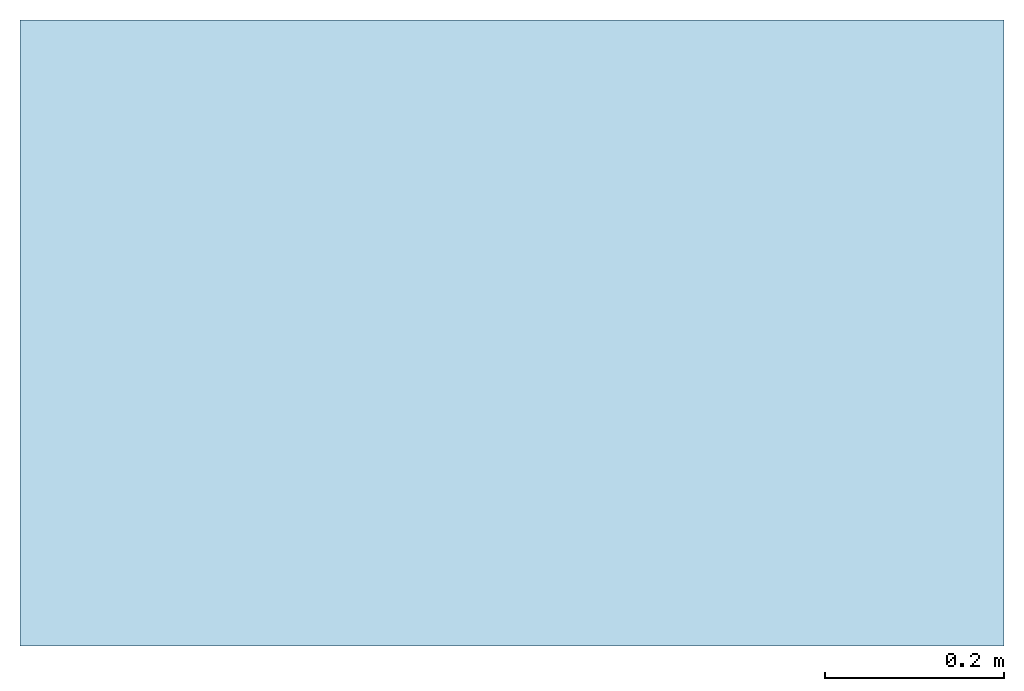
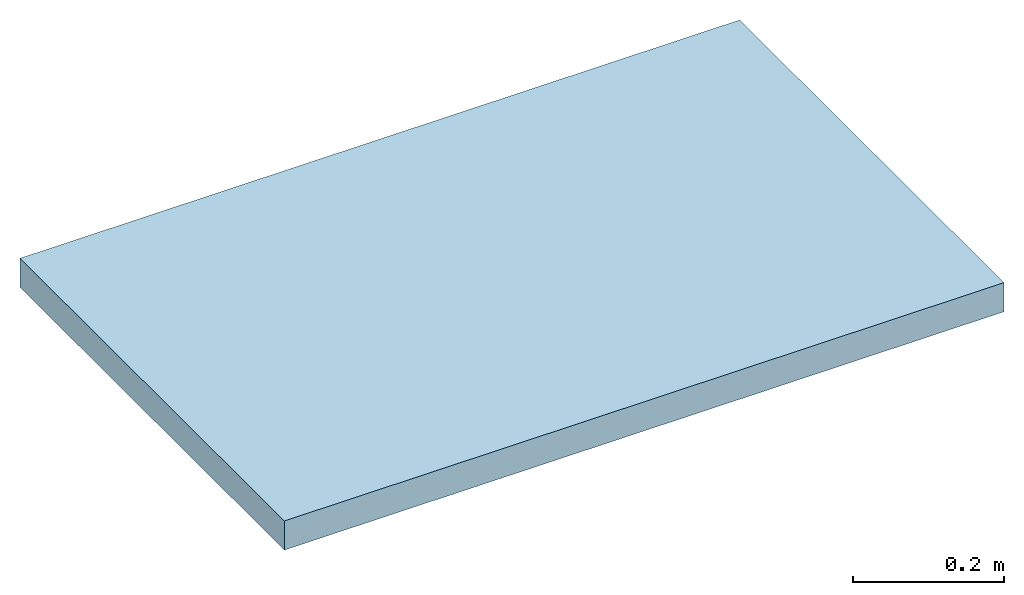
# One storey: 1 slab.
"""IFC2X3 building model written with IfcOpenShell, lengths in millimetres."""

from ifc_helpers import new_model, entity, si_unit, converted_unit, derived_unit, direction, frame, frame_2d, origin, place, context, subcontext, project, spatial, rectangle, extrude, material, layer, layer_set, layer_usage, element, save


model = new_model("IFC2X3")

# Units and contexts
model_context = context("Model", 3, precision=0.01, world=origin(), true_north=direction((6.12303176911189e-17, 1.0)))
context_of_model = context(None, 3, precision=0.01, world=origin(), true_north=direction((6.12303176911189e-17, 1.0)))
body_context = subcontext(model_context, "Body", "Model", "MODEL_VIEW")
ifc_project = project(units=[si_unit("LENGTHUNIT", "METRE", prefix="MILLI"), si_unit("AREAUNIT", "SQUARE_METRE"), si_unit("VOLUMEUNIT", "CUBIC_METRE"), converted_unit("PLANEANGLEUNIT", "DEGREE", entity("IfcRatioMeasure", 0.0174532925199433), si_unit("PLANEANGLEUNIT", "RADIAN"), dimensions=[0, 0, 0, 0, 0, 0, 0]), si_unit("MASSUNIT", "GRAM", prefix="KILO"), si_unit("TIMEUNIT", "SECOND"), si_unit("FREQUENCYUNIT", "HERTZ"), si_unit("THERMODYNAMICTEMPERATUREUNIT", "DEGREE_CELSIUS"), derived_unit("THERMALTRANSMITTANCEUNIT", [(si_unit("MASSUNIT", "GRAM", prefix="KILO"), 1), (si_unit("THERMODYNAMICTEMPERATUREUNIT", "KELVIN"), -1), (si_unit("TIMEUNIT", "SECOND"), -3)]), derived_unit("VOLUMETRICFLOWRATEUNIT", [(si_unit("LENGTHUNIT", "METRE"), 3), (si_unit("TIMEUNIT", "SECOND"), -1)]), si_unit("ELECTRICCURRENTUNIT", "AMPERE"), si_unit("ELECTRICVOLTAGEUNIT", "VOLT"), si_unit("POWERUNIT", "WATT"), si_unit("FORCEUNIT", "NEWTON", prefix="KILO"), si_unit("ILLUMINANCEUNIT", "LUX"), si_unit("LUMINOUSFLUXUNIT", "LUMEN"), si_unit("LUMINOUSINTENSITYUNIT", "CANDELA"), si_unit("PRESSUREUNIT", "PASCAL")], contexts=[model_context, context_of_model])

# Site, building, storey
site_placement = place(None, origin())
site = spatial("IfcSite", under=ifc_project, at=site_placement, Name="Default", CompositionType="ELEMENT")
building_placement = place(site_placement, origin())
building = spatial("IfcBuilding", under=site, at=building_placement, CompositionType="ELEMENT")
storey_placement = place(building_placement, origin())
storey = spatial("IfcBuildingStorey", under=building, at=storey_placement, Name="Уровень 1", CompositionType="ELEMENT", Elevation=0.0)

# Slab
ifc_material = material(Name="ROLS_ISOMARKET_Плита ENERGOFLOOR PIPELOCK 30/0,7-1,1 DES-sg")
ifc_layer = layer(ifc_material, 47.0)
ifc_layer_set = layer_set([ifc_layer], Name="Перекрытие:ROLS_ISOMARKET_Плита ENERGOFLOOR PIPELOCK 30/0,7-1,1 DES-sg")
ifc_layer_usage = layer_usage(ifc_layer_set, "AXIS3", "POSITIVE", 0.0)
slab_placement = place(storey_placement, origin())
element("IfcSlab", 1, at=slab_placement, inside=storey, material=ifc_layer_usage, Name="Перекрытие:ROLS_ISOMARKET_Плита ENERGOFLOOR PIPELOCK 30/0,7-1,1 DES-sg", ObjectType="Перекрытие:ROLS_ISOMARKET_Плита ENERGOFLOOR PIPELOCK 30/0,7-1,1 DES-sg", PredefinedType="FLOOR", context=body_context, shape_type="SweptSolid", body=[
    extrude(rectangle(XDim=699.999999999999, YDim=1100.0, at=frame_2d((-1.10844666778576e-12, -1.08002495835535e-12), x_axis=(1.0, 0.0))), frame((-12365.4270794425, 11452.1606263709, 0.0), z_axis=(0.0, 0.0, -1.0), x_axis=(0.0, 1.0, 0.0)), (0.0, 0.0, 1.0), 47.0),
])

save(model, "model.ifc")
